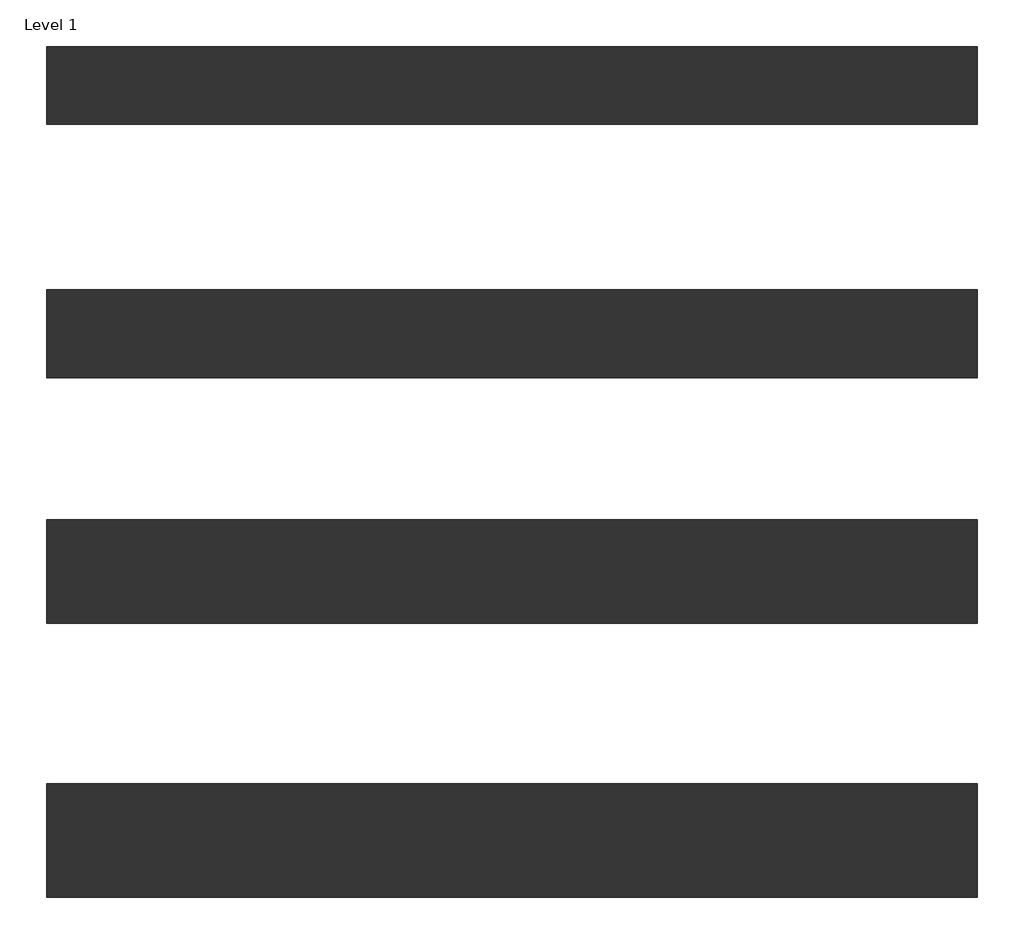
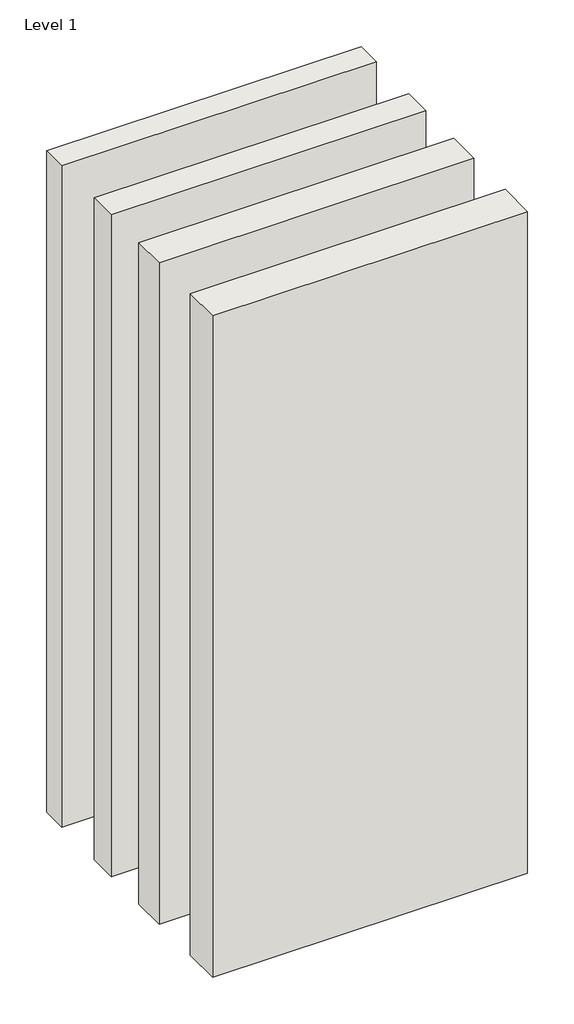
# One storey: 4 walls.
"""IFC4 building model written with IfcOpenShell, lengths in millimetres."""

from ifc_helpers import new_model, si_unit, origin, origin_with_axes, place, context, project, spatial, polyline, outline, extrude, element, save

model = new_model("IFC4")

# Units and contexts
model_context = context("Model", 3, world=origin())
ifc_project = project(units=[si_unit("LENGTHUNIT", "METRE", prefix="MILLI")], contexts=[model_context])

# Site, building, storey
site = spatial("IfcSite", under=ifc_project)
building = spatial("IfcBuilding", under=site)
storey = spatial("IfcBuildingStorey", under=building, Name="Level 1", Elevation=0.0)

# Walls
placement = place(None, origin())
element("IfcWall", 1, ObjectType="Interior-Timber Frame-Resilient Mount-CSR2160-150mm", at=placement, inside=storey, context=model_context, shape_type="SweptSolid", body=[
    extrude(outline(polyline([(1209.1027791, -2941.5592728), (3009.1027791, -2941.5592728), (3009.1027791, -3091.5592728), (1209.1027791, -3091.5592728), (1209.1027791, -2941.5592728)])), origin_with_axes(), (0.0, 0.0, 1.0), 4000.0),
])
element("IfcWall", 2, ObjectType="Interior-Timber Frame-Resilient Mount-CSR2160-170mm", at=placement, inside=storey, context=model_context, shape_type="SweptSolid", body=[
    extrude(outline(polyline([(1209.1027791, -3411.5592728), (3009.1027791, -3411.5592728), (3009.1027791, -3581.5592728), (1209.1027791, -3581.5592728), (1209.1027791, -3411.5592728)])), origin_with_axes(), (0.0, 0.0, 1.0), 4000.0),
])
element("IfcWall", 3, ObjectType="Interior-Timber Frame-Resilient Mount-CSR2160-200mm", at=placement, inside=storey, context=model_context, shape_type="SweptSolid", body=[
    extrude(outline(polyline([(1209.1027791, -3856.5592728), (3009.1027791, -3856.5592728), (3009.1027791, -4056.5592728), (1209.1027791, -4056.5592728), (1209.1027791, -3856.5592728)])), origin_with_axes(), (0.0, 0.0, 1.0), 4000.0),
])
element("IfcWall", 4, ObjectType="Interior-Timber Frame-Resilient Mount-CSR2160-220mm", at=placement, inside=storey, context=model_context, shape_type="SweptSolid", body=[
    extrude(outline(polyline([(1209.1027791, -4366.5592728), (3009.1027791, -4366.5592728), (3009.1027791, -4586.5592728), (1209.1027791, -4586.5592728), (1209.1027791, -4366.5592728)])), origin_with_axes(), (0.0, 0.0, 1.0), 4000.0),
])

save(model, "model.ifc")
